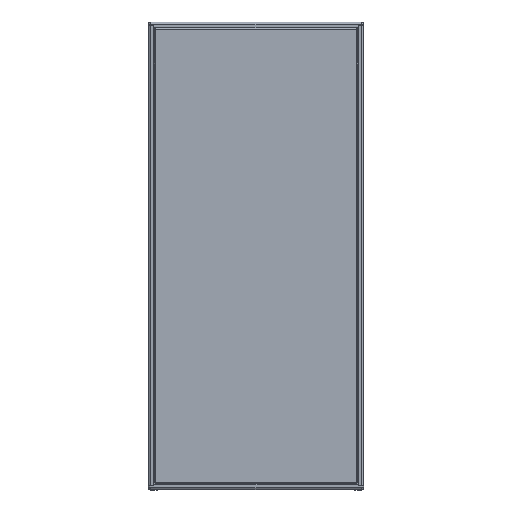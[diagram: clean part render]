
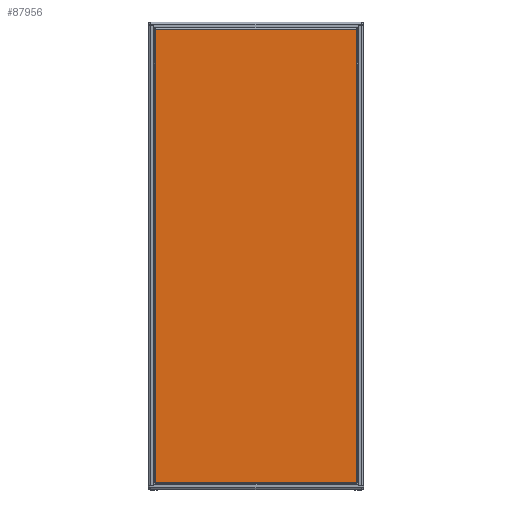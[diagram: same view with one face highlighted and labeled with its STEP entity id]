
A CAD part, top view. The second image highlights one B-rep face of the part: STEP entity #87956.
In plain terms, the highlighted planar face has unit normal (0, 0, 1) as drawn and (0, 1, 0) by its records, which use the part's own axes.
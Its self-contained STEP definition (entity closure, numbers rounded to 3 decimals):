
#1040 = FACE_OUTER_BOUND ( 'NONE', #24157, .T. ) ;
#4474 = AXIS2_PLACEMENT_3D ( 'NONE', #34222, #34201, #34161 ) ;
#17299 = CARTESIAN_POINT ( 'NONE',  ( 3., 2., -3. ) ) ;
#17347 = CARTESIAN_POINT ( 'NONE',  ( 3., 2., -1225. ) ) ;
#17365 = CARTESIAN_POINT ( 'NONE',  ( 545., 2., -3. ) ) ;
#17367 = CARTESIAN_POINT ( 'NONE',  ( 545., 2., -1225. ) ) ;
#24157 = EDGE_LOOP ( 'NONE', ( #75330, #75361, #75356, #75281 ) ) ;
#29628 = CARTESIAN_POINT ( 'NONE',  ( 545.293, 2., -1225. ) ) ;
#29632 = DIRECTION ( 'NONE',  ( -1., 0., 0. ) ) ;
#29702 = DIRECTION ( 'NONE',  ( 0., 0., 1. ) ) ;
#29716 = DIRECTION ( 'NONE',  ( 0., 0., -1. ) ) ;
#29735 = CARTESIAN_POINT ( 'NONE',  ( 545., 2., -2.707 ) ) ;
#29784 = CARTESIAN_POINT ( 'NONE',  ( 3., 2., -1225.293 ) ) ;
#31504 = DIRECTION ( 'NONE',  ( 1., 0., 0. ) ) ;
#31543 = CARTESIAN_POINT ( 'NONE',  ( 2.707, 2., -3. ) ) ;
#34161 = DIRECTION ( 'NONE',  ( 0., 0., -1. ) ) ;
#34201 = DIRECTION ( 'NONE',  ( 0., -1., 0. ) ) ;
#34222 = CARTESIAN_POINT ( 'NONE',  ( 0., 2., -1228. ) ) ;
#34239 = PLANE ( 'NONE',  #4474 ) ;
#36500 = LINE ( 'NONE', #31543, #36582 ) ;
#36582 = VECTOR ( 'NONE', #31504, 1000. ) ;
#42218 = VECTOR ( 'NONE', #29716, 1000. ) ;
#42221 = VECTOR ( 'NONE', #29632, 1000. ) ;
#42269 = LINE ( 'NONE', #29628, #42221 ) ;
#42274 = LINE ( 'NONE', #29735, #42218 ) ;
#42300 = LINE ( 'NONE', #29784, #42301 ) ;
#42301 = VECTOR ( 'NONE', #29702, 1000. ) ;
#61558 = EDGE_CURVE ( 'NONE', #71859, #71880, #36500, .T. ) ;
#61749 = EDGE_CURVE ( 'NONE', #71884, #71853, #42269, .T. ) ;
#61768 = EDGE_CURVE ( 'NONE', #71880, #71884, #42274, .T. ) ;
#61785 = EDGE_CURVE ( 'NONE', #71853, #71859, #42300, .T. ) ;
#71853 = VERTEX_POINT ( 'NONE', #17347 ) ;
#71859 = VERTEX_POINT ( 'NONE', #17299 ) ;
#71880 = VERTEX_POINT ( 'NONE', #17365 ) ;
#71884 = VERTEX_POINT ( 'NONE', #17367 ) ;
#75281 = ORIENTED_EDGE ( 'NONE', *, *, #61768, .T. ) ;
#75330 = ORIENTED_EDGE ( 'NONE', *, *, #61749, .T. ) ;
#75356 = ORIENTED_EDGE ( 'NONE', *, *, #61558, .T. ) ;
#75361 = ORIENTED_EDGE ( 'NONE', *, *, #61785, .T. ) ;
#87956 = ADVANCED_FACE ( 'NONE', ( #1040 ), #34239, .F. ) ;
